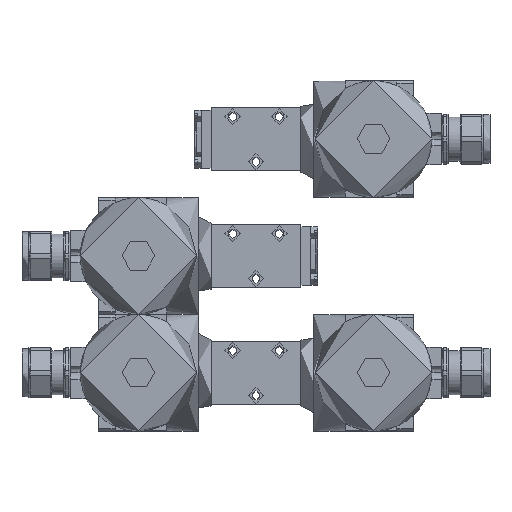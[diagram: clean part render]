
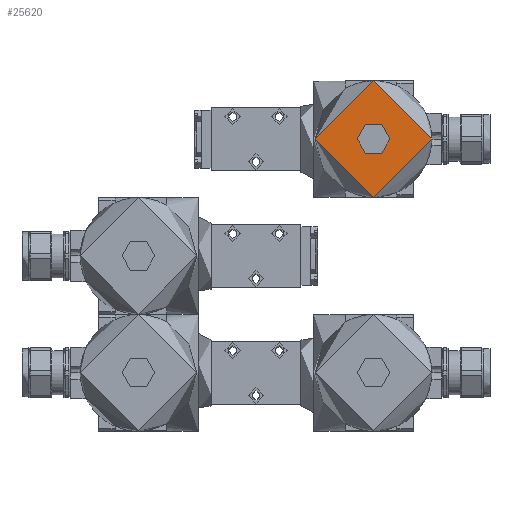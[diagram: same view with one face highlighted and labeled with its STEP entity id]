
A CAD part, top view. The second image highlights one B-rep face of the part: STEP entity #25620.
In plain terms, the highlighted planar face has unit normal (0, 0, 1).
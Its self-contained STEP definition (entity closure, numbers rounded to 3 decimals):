
#25620=ADVANCED_FACE('', (#25630,#25640), #25650, .T.);
#73700=AXIS2_PLACEMENT_3D('Ax2Pl3d', #73710, #73720, #73730);
#79620=AXIS2_PLACEMENT_3D('Ax2Pl3d', #79630, #79640, #79650);
#73710=CARTESIAN_POINT('HicPkt', (-57.171,87.065,
351.597));
#198330=CARTESIAN_POINT('', (-57.171,52.065,351.597)
);
#200940=CARTESIAN_POINT('', (-62.079,78.593,351.597)
);
#200950=CARTESIAN_POINT('', (-66.986,87.093,351.597)
);
#200960=CARTESIAN_POINT('', (-62.079,78.593,351.597)
);
#79630=CARTESIAN_POINT('HicPkt', (-57.171,52.065,
351.597));
#201020=CARTESIAN_POINT('', (-66.986,87.093,351.597)
);
#201030=CARTESIAN_POINT('', (-62.079,95.593,351.597)
);
#201040=CARTESIAN_POINT('', (-62.079,95.593,351.597)
);
#201050=CARTESIAN_POINT('', (-52.264,95.593,351.597))
;
#201060=CARTESIAN_POINT('', (-52.264,95.593,351.597))
;
#201070=CARTESIAN_POINT('', (-47.356,87.093,351.597)
);
#201080=CARTESIAN_POINT('', (-47.356,87.093,351.597)
);
#201090=CARTESIAN_POINT('', (-52.264,78.593,351.597))
;
#201100=CARTESIAN_POINT('', (-52.264,78.593,351.597))
;
#206560=CIRCLE('Circle', #73700, 35.);
#73720=DIRECTION('Axis', (0.,0.,-1.));
#73730=DIRECTION('RefDirection', (-1.,0.,0.));
#274590=DIRECTION('', (0.5,-0.866,0.));
#79640=DIRECTION('Axis', (0.,0.,1.));
#79650=DIRECTION('RefDirection', (1.,0.,0.));
#274630=DIRECTION('', (-0.5,-0.866,0.));
#274640=DIRECTION('', (-1.,0.,0.));
#274650=DIRECTION('', (-0.5,0.866,0.));
#274660=DIRECTION('', (0.5,0.866,0.));
#274670=DIRECTION('', (1.,0.,0.));
#305730=EDGE_CURVE('', #305740, #305740, #206560, .T.);
#310430=EDGE_CURVE('', #310440, #310450, #310460, .T.);
#310550=EDGE_CURVE('', #310560, #310440, #310570, .T.);
#310580=EDGE_CURVE('', #310590, #310560, #310600, .T.);
#310610=EDGE_CURVE('', #310620, #310590, #310630, .T.);
#310640=EDGE_CURVE('', #310650, #310620, #310660, .T.);
#310670=EDGE_CURVE('', #310450, #310650, #310680, .T.);
#353880=EDGE_LOOP('Edge_loop', (#353890));
#353900=EDGE_LOOP('Edge_loop', (#353910,#353920,#353930,#353940,#353950,
#353960));
#25640=FACE_BOUND('', #353900, .T.);
#25630=FACE_OUTER_BOUND('Face_outer_bound', #353880, .T.);
#310460=LINE('Line', #200940, #382290);
#310570=LINE('Line', #201020, #382330);
#310600=LINE('Line', #201040, #382340);
#310630=LINE('Line', #201060, #382350);
#310660=LINE('Line', #201080, #382360);
#310680=LINE('Line', #201100, #382370);
#353890=ORIENTED_EDGE('', *, *, #305730, .F.);
#353910=ORIENTED_EDGE('', *, *, #310430, .F.);
#353920=ORIENTED_EDGE('', *, *, #310550, .F.);
#353930=ORIENTED_EDGE('', *, *, #310580, .F.);
#353940=ORIENTED_EDGE('', *, *, #310610, .F.);
#353950=ORIENTED_EDGE('', *, *, #310640, .F.);
#353960=ORIENTED_EDGE('', *, *, #310670, .F.);
#25650=PLANE('Plane', #79620);
#382290=VECTOR('', #274590, 9.815);
#382330=VECTOR('', #274630, 9.815);
#382340=VECTOR('', #274640, 9.815);
#382350=VECTOR('', #274650, 9.815);
#382360=VECTOR('', #274660, 9.815);
#382370=VECTOR('', #274670, 9.815);
#305740=VERTEX_POINT('', #198330);
#310440=VERTEX_POINT('', #200950);
#310450=VERTEX_POINT('', #200960);
#310560=VERTEX_POINT('', #201030);
#310590=VERTEX_POINT('', #201050);
#310620=VERTEX_POINT('', #201070);
#310650=VERTEX_POINT('', #201090);
